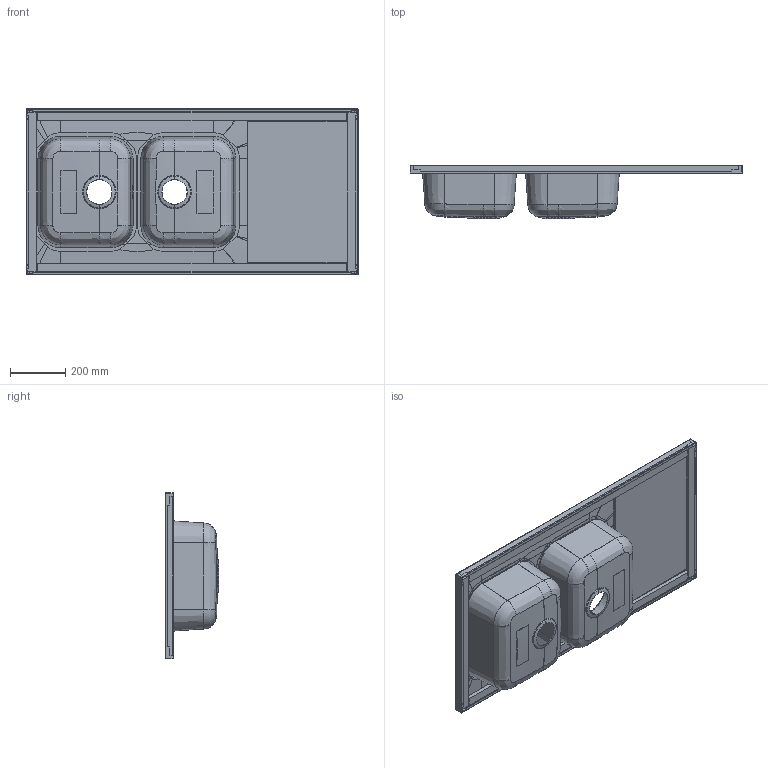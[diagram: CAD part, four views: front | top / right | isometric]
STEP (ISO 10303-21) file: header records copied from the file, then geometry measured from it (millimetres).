
FILE_DESCRIPTION((''),'2;1');
FILE_NAME('1101750-POM-CLA-100R-90-120X60V_ASM','2020-10-22T',('rafaelz'),('Audax d.o.o.'),'PRO/ENGINEER BY PARAMETRIC TECHNOLOGY CORPORATION, 2017170','PRO/ENGINEER BY PARAMETRIC TECHNOLOGY CORPORATION, 2017170','');
FILE_SCHEMA(('CONFIG_CONTROL_DESIGN'));
Length unit declared in the file: millimetre
Products named in the file (10): 1101793-OKV-1200X600-2Q-BZR_AF0; 1008048-POS-340X400-180Q-D9_AF0; 1008072-POS-340X400-180Q-D-_AF0; 1018622-OBLOGA-DNA-160X60X2_AF0; 1018622-OBLOGA-DNA-160X60X2_AF1; 1101792-OK-S-POS-CLA100-120X60R_ASM; 1022846-LETEV-PREDNJA-ZADNJA; 1022849-LETEV-STRANSKA; 1101783-PODLOGA_IVERKA; 1101750-POM-CLA-100R-90-120X60V_ASM
Assembly tree (11 placements, depth 3):
  1101750-POM-CLA-100R-90-120X60V_ASM
    1101792-OK-S-POS-CLA100-120X60R_ASM
      1101793-OKV-1200X600-2Q-BZR_AF0
      1008048-POS-340X400-180Q-D9_AF0
      1008072-POS-340X400-180Q-D-_AF0
      1018622-OBLOGA-DNA-160X60X2_AF0
      1018622-OBLOGA-DNA-160X60X2_AF1
    1022846-LETEV-PREDNJA-ZADNJA  x2
    1022849-LETEV-STRANSKA  x2
    1101783-PODLOGA_IVERKA
Bounding box: 1200 x 194.3 x 600 mm (x, y, z)
Volume: 4773176.4 mm3; surface area: 3396224.6 mm2
Topology: 10 solids, 10 shells, 599 faces, 1422 edges, 845 vertices
Faces by surface type: plane 196, bspline 180, cylinder 99, cone 60, torus 40, sphere 14, extrusion 10
Entity records: 32490 total; most frequent: CARTESIAN_POINT 20113, ORIENTED_EDGE 2722, DIRECTION 2280, EDGE_CURVE 1361, AXIS2_PLACEMENT_3D 853, VERTEX_POINT 805, EDGE_LOOP 602, VECTOR 574
